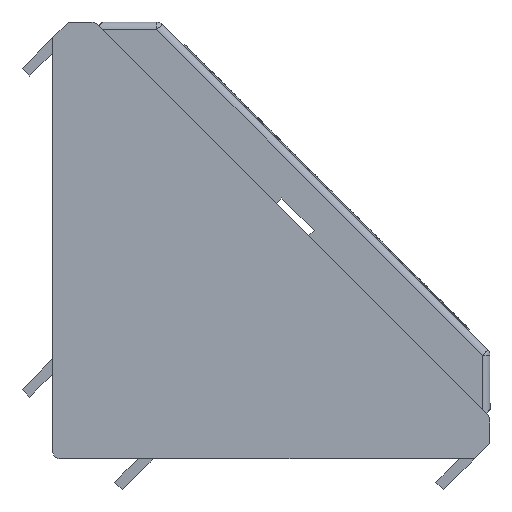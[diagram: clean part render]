
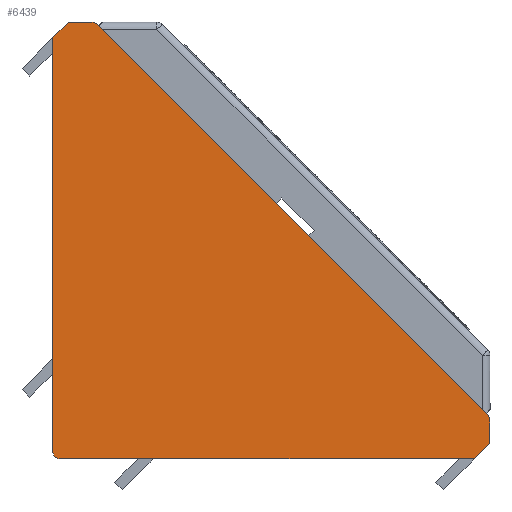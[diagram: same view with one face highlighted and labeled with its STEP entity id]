
A CAD part, left-side view. The second image highlights one B-rep face of the part: STEP entity #6439.
In plain terms, the highlighted planar face has unit normal (-1, 0, 0).
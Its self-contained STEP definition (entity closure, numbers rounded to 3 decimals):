
#131=PLANE('',#6882);
#450=FACE_OUTER_BOUND('',#833,.T.);
#833=EDGE_LOOP('',(#4800,#4801,#4802,#4803,#4804,#4805,#4806,#4807,#4808,
#4809));
#1178=LINE('',#9001,#2034);
#1187=LINE('',#9029,#2043);
#1277=LINE('',#9252,#2133);
#1283=LINE('',#9263,#2139);
#1329=LINE('',#9353,#2185);
#1371=LINE('',#9437,#2227);
#1377=LINE('',#9454,#2233);
#2034=VECTOR('',#7271,1000.);
#2043=VECTOR('',#7294,1000.);
#2133=VECTOR('',#7466,1000.);
#2139=VECTOR('',#7474,1000.);
#2185=VECTOR('',#7522,1000.);
#2227=VECTOR('',#7566,1000.);
#2233=VECTOR('',#7588,1000.);
#2889=CIRCLE('',#6824,1.);
#2918=CIRCLE('',#6883,1.);
#2919=CIRCLE('',#6884,1.);
#2944=VERTEX_POINT('',#8993);
#2945=VERTEX_POINT('',#8995);
#2946=VERTEX_POINT('',#8999);
#2947=VERTEX_POINT('',#9000);
#2958=VERTEX_POINT('',#9027);
#2959=VERTEX_POINT('',#9028);
#3051=VERTEX_POINT('',#9251);
#3055=VERTEX_POINT('',#9262);
#3139=VERTEX_POINT('',#9436);
#3142=VERTEX_POINT('',#9452);
#3560=EDGE_CURVE('',#2944,#2945,#2889,.T.);
#3562=EDGE_CURVE('',#2946,#2947,#1178,.T.);
#3575=EDGE_CURVE('',#2958,#2959,#1187,.T.);
#3687=EDGE_CURVE('',#2947,#3051,#1277,.T.);
#3693=EDGE_CURVE('',#2945,#3055,#1283,.T.);
#3739=EDGE_CURVE('',#3051,#2944,#1329,.T.);
#3781=EDGE_CURVE('',#3055,#3139,#1371,.T.);
#3789=EDGE_CURVE('',#2959,#2946,#2918,.T.);
#3790=EDGE_CURVE('',#3142,#2958,#2919,.T.);
#3791=EDGE_CURVE('',#3139,#3142,#1377,.T.);
#4800=ORIENTED_EDGE('',*,*,#3562,.F.);
#4801=ORIENTED_EDGE('',*,*,#3789,.F.);
#4802=ORIENTED_EDGE('',*,*,#3575,.F.);
#4803=ORIENTED_EDGE('',*,*,#3790,.F.);
#4804=ORIENTED_EDGE('',*,*,#3791,.F.);
#4805=ORIENTED_EDGE('',*,*,#3781,.F.);
#4806=ORIENTED_EDGE('',*,*,#3693,.F.);
#4807=ORIENTED_EDGE('',*,*,#3560,.F.);
#4808=ORIENTED_EDGE('',*,*,#3739,.F.);
#4809=ORIENTED_EDGE('',*,*,#3687,.F.);
#6439=ADVANCED_FACE('',(#450),#131,.F.);
#6824=AXIS2_PLACEMENT_3D('',#8996,#7266,#7267);
#6882=AXIS2_PLACEMENT_3D('',#9450,#7582,#7583);
#6883=AXIS2_PLACEMENT_3D('',#9451,#7584,#7585);
#6884=AXIS2_PLACEMENT_3D('',#9453,#7586,#7587);
#7266=DIRECTION('center_axis',(1.,0.,0.));
#7267=DIRECTION('ref_axis',(0.,0.,-1.));
#7271=DIRECTION('',(0.,-1.,0.));
#7294=DIRECTION('',(0.,-0.707,0.707));
#7466=DIRECTION('',(0.,-0.707,-0.707));
#7474=DIRECTION('',(0.,1.,0.));
#7522=DIRECTION('',(0.,0.,-1.));
#7566=DIRECTION('',(0.,0.707,0.707));
#7582=DIRECTION('center_axis',(1.,0.,0.));
#7583=DIRECTION('ref_axis',(0.,0.,-1.));
#7584=DIRECTION('center_axis',(1.,0.,0.));
#7585=DIRECTION('ref_axis',(0.,0.,-1.));
#7586=DIRECTION('center_axis',(1.,0.,0.));
#7587=DIRECTION('ref_axis',(0.,0.,-1.));
#7588=DIRECTION('',(0.,0.,1.));
#8993=CARTESIAN_POINT('',(-29.,0.,1.));
#8995=CARTESIAN_POINT('',(-29.,1.,0.));
#8996=CARTESIAN_POINT('Origin',(-29.,1.,1.));
#8999=CARTESIAN_POINT('',(-29.,5.094,57.));
#9000=CARTESIAN_POINT('',(-29.,1.987,57.));
#9001=CARTESIAN_POINT('',(-29.,5.094,57.));
#9027=CARTESIAN_POINT('',(-29.,56.707,5.801));
#9028=CARTESIAN_POINT('',(-29.,5.801,56.707));
#9029=CARTESIAN_POINT('',(-29.,56.707,5.801));
#9251=CARTESIAN_POINT('',(-29.,0.,55.013));
#9252=CARTESIAN_POINT('',(-29.,1.987,57.));
#9262=CARTESIAN_POINT('',(-29.,55.013,0.));
#9263=CARTESIAN_POINT('',(-29.,1.,0.));
#9353=CARTESIAN_POINT('',(-29.,0.,55.013));
#9436=CARTESIAN_POINT('',(-29.,57.,1.987));
#9437=CARTESIAN_POINT('',(-29.,55.013,0.));
#9450=CARTESIAN_POINT('Origin',(-29.,1.,1.));
#9451=CARTESIAN_POINT('Origin',(-29.,5.094,56.));
#9452=CARTESIAN_POINT('',(-29.,57.,5.094));
#9453=CARTESIAN_POINT('Origin',(-29.,56.,5.094));
#9454=CARTESIAN_POINT('',(-29.,57.,1.987));
